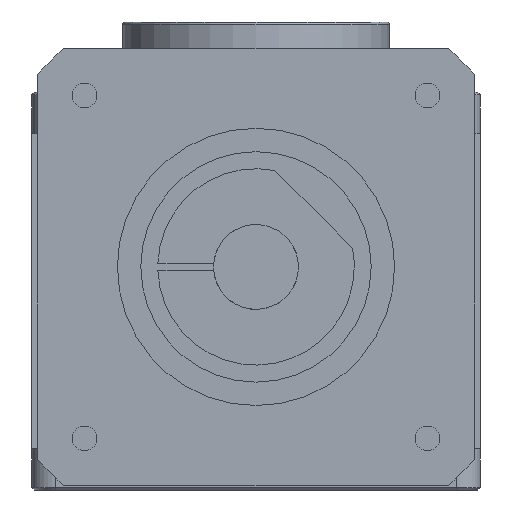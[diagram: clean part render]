
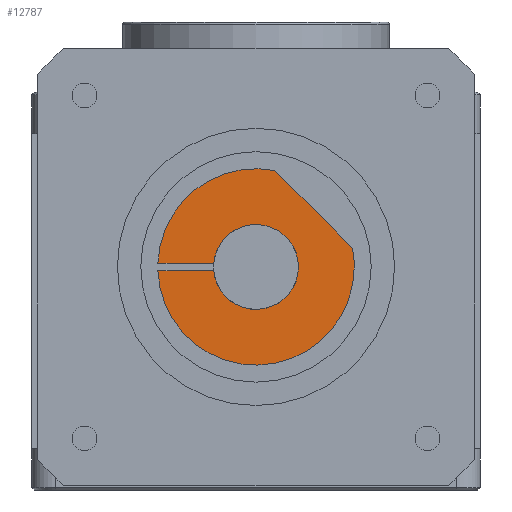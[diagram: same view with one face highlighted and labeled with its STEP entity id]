
A CAD part, front view. The second image highlights one B-rep face of the part: STEP entity #12787.
In plain terms, the highlighted planar face has unit normal (0, -1, 0) as drawn and (0, 0, -1) by its records, which use the part's own axes.
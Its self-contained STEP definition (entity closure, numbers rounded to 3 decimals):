
#112 = CIRCLE ( 'NONE', #6323, 40.5 ) ;
#399 = VERTEX_POINT ( 'NONE', #14346 ) ;
#416 = VERTEX_POINT ( 'NONE', #4371 ) ;
#440 = CARTESIAN_POINT ( 'NONE',  ( -17.436, -1.5, -145. ) ) ;
#488 = ORIENTED_EDGE ( 'NONE', *, *, #6367, .F. ) ;
#510 = LINE ( 'NONE', #12902, #1168 ) ;
#948 = EDGE_CURVE ( 'NONE', #416, #9751, #9448, .T. ) ;
#1168 = VECTOR ( 'NONE', #12071, 1000. ) ;
#1198 = DIRECTION ( 'NONE',  ( 0., 0., -1. ) ) ;
#1247 = ORIENTED_EDGE ( 'NONE', *, *, #12963, .T. ) ;
#1377 = LINE ( 'NONE', #6242, #13431 ) ;
#1409 = CIRCLE ( 'NONE', #5548, 40.5 ) ;
#1490 = ORIENTED_EDGE ( 'NONE', *, *, #948, .F. ) ;
#1892 = AXIS2_PLACEMENT_3D ( 'NONE', #11806, #10680, #12856 ) ;
#2668 = AXIS2_PLACEMENT_3D ( 'NONE', #14236, #3132, #15212 ) ;
#2865 = EDGE_CURVE ( 'NONE', #10841, #14648, #1377, .T. ) ;
#2984 = FACE_OUTER_BOUND ( 'NONE', #7059, .T. ) ;
#3132 = DIRECTION ( 'NONE',  ( 0., 0., -1. ) ) ;
#3922 = CARTESIAN_POINT ( 'NONE',  ( 0., 0., -145. ) ) ;
#4048 = ORIENTED_EDGE ( 'NONE', *, *, #6852, .F. ) ;
#4371 = CARTESIAN_POINT ( 'NONE',  ( 17.5, 0., -145. ) ) ;
#4896 = VERTEX_POINT ( 'NONE', #9587 ) ;
#4920 = CARTESIAN_POINT ( 'NONE',  ( -14.368, 1.5, -145. ) ) ;
#5027 = DIRECTION ( 'NONE',  ( 0.707, 0.707, 0. ) ) ;
#5548 = AXIS2_PLACEMENT_3D ( 'NONE', #7957, #6498, #15430 ) ;
#5552 = CARTESIAN_POINT ( 'NONE',  ( -17.436, 1.5, -145. ) ) ;
#6242 = CARTESIAN_POINT ( 'NONE',  ( 23.75, -23.75, -145. ) ) ;
#6323 = AXIS2_PLACEMENT_3D ( 'NONE', #14203, #15257, #14285 ) ;
#6367 = EDGE_CURVE ( 'NONE', #9751, #399, #510, .T. ) ;
#6498 = DIRECTION ( 'NONE',  ( 0., 0., -1. ) ) ;
#6852 = EDGE_CURVE ( 'NONE', #14618, #10510, #10921, .T. ) ;
#7059 = EDGE_LOOP ( 'NONE', ( #7356, #15028, #488, #1490, #13126, #4048, #1247, #15126 ) ) ;
#7356 = ORIENTED_EDGE ( 'NONE', *, *, #2865, .F. ) ;
#7923 = PLANE ( 'NONE',  #1892 ) ;
#7957 = CARTESIAN_POINT ( 'NONE',  ( 0., 0., -145. ) ) ;
#7983 = CARTESIAN_POINT ( 'NONE',  ( 39.752, -7.748, -145. ) ) ;
#8721 = EDGE_CURVE ( 'NONE', #10510, #416, #12488, .T. ) ;
#9439 = AXIS2_PLACEMENT_3D ( 'NONE', #3922, #14360, #11456 ) ;
#9448 = CIRCLE ( 'NONE', #11521, 17.5 ) ;
#9587 = CARTESIAN_POINT ( 'NONE',  ( 40.5, 0., -145. ) ) ;
#9751 = VERTEX_POINT ( 'NONE', #440 ) ;
#10510 = VERTEX_POINT ( 'NONE', #5552 ) ;
#10680 = DIRECTION ( 'NONE',  ( 0., 0., -1. ) ) ;
#10841 = VERTEX_POINT ( 'NONE', #13792 ) ;
#10921 = LINE ( 'NONE', #4920, #14079 ) ;
#11456 = DIRECTION ( 'NONE',  ( -1., 0., 0. ) ) ;
#11521 = AXIS2_PLACEMENT_3D ( 'NONE', #12119, #1198, #12287 ) ;
#11806 = CARTESIAN_POINT ( 'NONE',  ( 0., 0., -145. ) ) ;
#12071 = DIRECTION ( 'NONE',  ( -1., 0., 0. ) ) ;
#12119 = CARTESIAN_POINT ( 'NONE',  ( 0., 0., -145. ) ) ;
#12287 = DIRECTION ( 'NONE',  ( -1., 0., 0. ) ) ;
#12370 = DIRECTION ( 'NONE',  ( 1., 0., 0. ) ) ;
#12488 = CIRCLE ( 'NONE', #2668, 17.5 ) ;
#12787 = ADVANCED_FACE ( 'NONE', ( #2984 ), #7923, .T. ) ;
#12856 = DIRECTION ( 'NONE',  ( -1., 0., 0. ) ) ;
#12902 = CARTESIAN_POINT ( 'NONE',  ( -14.368, -1.5, -145. ) ) ;
#12963 = EDGE_CURVE ( 'NONE', #14618, #4896, #112, .T. ) ;
#13025 = EDGE_CURVE ( 'NONE', #4896, #14648, #1409, .T. ) ;
#13126 = ORIENTED_EDGE ( 'NONE', *, *, #8721, .F. ) ;
#13431 = VECTOR ( 'NONE', #5027, 1000. ) ;
#13792 = CARTESIAN_POINT ( 'NONE',  ( 7.748, -39.752, -145. ) ) ;
#13827 = EDGE_CURVE ( 'NONE', #10841, #399, #15134, .T. ) ;
#14079 = VECTOR ( 'NONE', #12370, 1000. ) ;
#14159 = CARTESIAN_POINT ( 'NONE',  ( -40.472, 1.5, -145. ) ) ;
#14203 = CARTESIAN_POINT ( 'NONE',  ( 0., 0., -145. ) ) ;
#14236 = CARTESIAN_POINT ( 'NONE',  ( 0., 0., -145. ) ) ;
#14285 = DIRECTION ( 'NONE',  ( -1., 0., 0. ) ) ;
#14346 = CARTESIAN_POINT ( 'NONE',  ( -40.472, -1.5, -145. ) ) ;
#14360 = DIRECTION ( 'NONE',  ( 0., 0., -1. ) ) ;
#14618 = VERTEX_POINT ( 'NONE', #14159 ) ;
#14648 = VERTEX_POINT ( 'NONE', #7983 ) ;
#15028 = ORIENTED_EDGE ( 'NONE', *, *, #13827, .T. ) ;
#15126 = ORIENTED_EDGE ( 'NONE', *, *, #13025, .T. ) ;
#15134 = CIRCLE ( 'NONE', #9439, 40.5 ) ;
#15212 = DIRECTION ( 'NONE',  ( -1., 0., 0. ) ) ;
#15257 = DIRECTION ( 'NONE',  ( 0., 0., -1. ) ) ;
#15430 = DIRECTION ( 'NONE',  ( -1., 0., 0. ) ) ;
